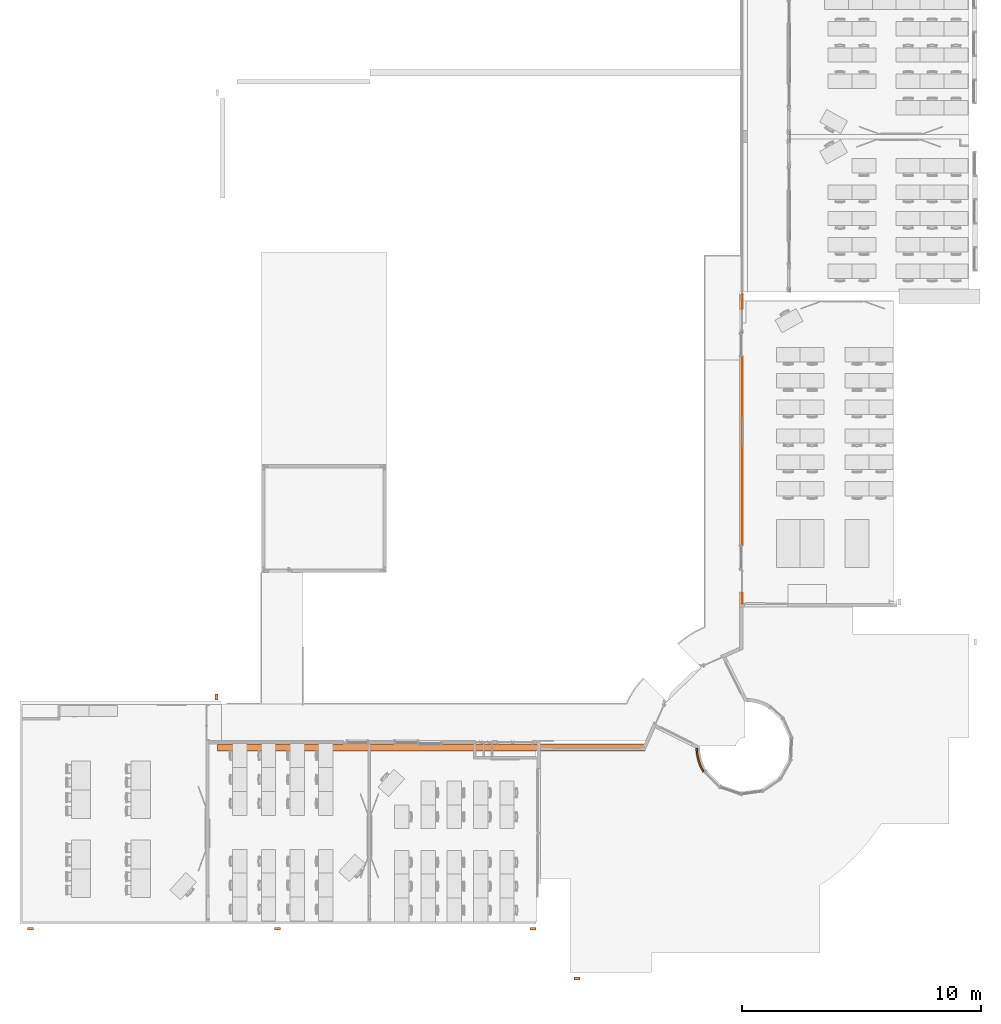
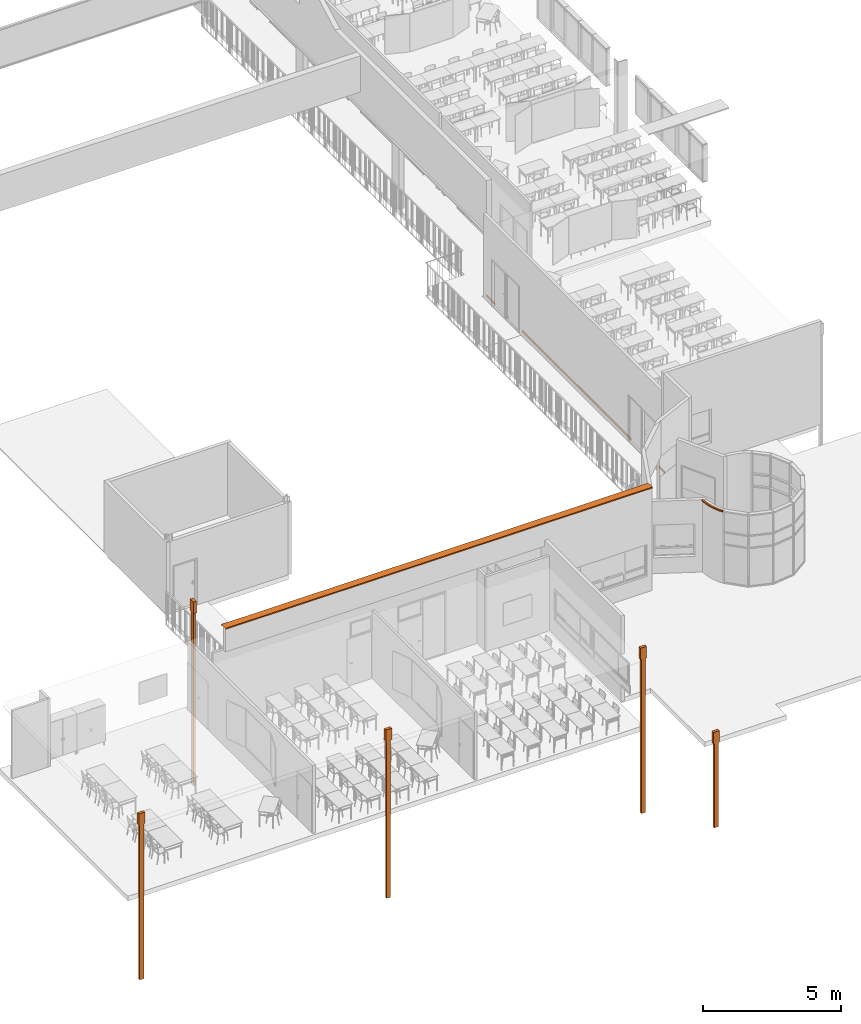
# One storey, part 43 of 44: 8 proxies.
"""IFC2X3 building model written with IfcOpenShell, lengths in centimetres."""

from ifc_helpers import new_model, entity, si_unit, converted_unit, derived_unit, direction, frame, frame_2d, origin, origin_2d_with_axis, place, context, subcontext, project, spatial, polyline, circle_curve, parameter, trimmed, segment, composite_curve, rectangle, outline, extrude, source, transform, mapped, type_object, type_shapes, element, save


model = new_model("IFC2X3")

# Units and contexts
model_context = context("Model", 3, precision=0.001, world=origin(), true_north=direction((6.12303176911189e-17, 1.0)))
body_context = subcontext(model_context, "Body", "Model", "MODEL_VIEW")
ifc_project = project(units=[si_unit("LENGTHUNIT", "METRE", prefix="CENTI"), si_unit("AREAUNIT", "SQUARE_METRE"), si_unit("VOLUMEUNIT", "CUBIC_METRE"), converted_unit("PLANEANGLEUNIT", "DEGREE", entity("IfcRatioMeasure", 0.0174532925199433), si_unit("PLANEANGLEUNIT", "RADIAN"), dimensions=[0, 0, 0, 0, 0, 0, 0]), si_unit("MASSUNIT", "GRAM", prefix="KILO"), si_unit("TIMEUNIT", "SECOND"), si_unit("FREQUENCYUNIT", "HERTZ"), si_unit("THERMODYNAMICTEMPERATUREUNIT", "DEGREE_CELSIUS"), derived_unit("THERMALTRANSMITTANCEUNIT", [(si_unit("MASSUNIT", "GRAM", prefix="KILO"), 1), (si_unit("THERMODYNAMICTEMPERATUREUNIT", "KELVIN"), -1), (si_unit("TIMEUNIT", "SECOND"), -3)]), derived_unit("VOLUMETRICFLOWRATEUNIT", [(si_unit("LENGTHUNIT", "METRE"), 3), (si_unit("TIMEUNIT", "SECOND"), -1)]), si_unit("ELECTRICCURRENTUNIT", "AMPERE"), si_unit("ELECTRICVOLTAGEUNIT", "VOLT"), si_unit("POWERUNIT", "WATT"), si_unit("FORCEUNIT", "NEWTON", prefix="KILO"), si_unit("ILLUMINANCEUNIT", "LUX"), si_unit("LUMINOUSFLUXUNIT", "LUMEN"), si_unit("LUMINOUSINTENSITYUNIT", "CANDELA"), derived_unit("USERDEFINED", [(si_unit("MASSUNIT", "GRAM", prefix="KILO"), -1), (si_unit("LENGTHUNIT", "METRE"), -2), (si_unit("TIMEUNIT", "SECOND"), 3), (si_unit("LUMINOUSFLUXUNIT", "LUMEN"), 1)]), derived_unit("LINEARVELOCITYUNIT", [(si_unit("LENGTHUNIT", "METRE"), 1), (si_unit("TIMEUNIT", "SECOND"), -1)]), si_unit("PRESSUREUNIT", "PASCAL"), derived_unit("USERDEFINED", [(si_unit("LENGTHUNIT", "METRE"), -2), (si_unit("MASSUNIT", "GRAM", prefix="KILO"), 1), (si_unit("TIMEUNIT", "SECOND"), -2)])], contexts=[model_context])

# Site, building, storey
site_placement = place(None, frame((8.62739174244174, -249.285249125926, 0.0)))
site = spatial("IfcSite", under=ifc_project, at=site_placement, Name="Default", CompositionType="ELEMENT")
building_placement = place(site_placement, origin())
building = spatial("IfcBuilding", under=site, at=building_placement, CompositionType="ELEMENT")
storey_placement = place(building_placement, frame((0.0, 0.0, 343.0)))
storey = spatial("IfcBuildingStorey", under=building, at=storey_placement, Name="R+1", CompositionType="ELEMENT", Elevation=343.0)

# Proxies
building_element_proxy_type_1 = type_object("IfcBuildingElementProxyType", Name="descenteEP", PredefinedType="NOTDEFINED")
shared_shape_1 = source(origin(), body_context, "Body", "SweptSolid", [
    extrude(rectangle(XDim=10.0, YDim=17.0, at=frame_2d((0.0, 3.5527136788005e-15), x_axis=(1.0, 0.0))), frame((0.0, 0.0, -373.3), z_axis=(0.0, 0.0, 1.0), x_axis=(0.0, -1.0, 0.0)), (0.0, 0.0, 1.0), 373.3),
    extrude(rectangle(XDim=12.0, YDim=25.0, at=origin_2d_with_axis()), frame((0.0, 0.0, 0.0), z_axis=(0.0, 0.0, 1.0), x_axis=(0.0, 1.0, 0.0)), (0.0, 0.0, 1.0), 50.5380588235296),
])
type_shapes(building_element_proxy_type_1, [shared_shape_1])
proxy_1_placement = place(storey_placement, frame((2341.4048278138, -214.019791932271, 5.0)))
element("IfcBuildingElementProxy", 1, at=proxy_1_placement, inside=storey, type_object=building_element_proxy_type_1, Name="descenteEP:descenteEP", ObjectType="descenteEP", context=body_context, shape_type="MappedRepresentation", body=[
    mapped(shared_shape_1, transform((0.0, 0.0, 0.0), scale=1.0)),
])
building_element_proxy_type_2 = type_object("IfcBuildingElementProxyType", Name="descenteEP", PredefinedType="NOTDEFINED")
shared_shape_2 = source(origin(), body_context, "Body", "SweptSolid", [
    extrude(rectangle(XDim=10.0, YDim=17.0, at=frame_2d((0.0, 3.5527136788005e-15), x_axis=(1.0, 0.0))), frame((0.0, 0.0, -683.0), z_axis=(0.0, 0.0, 1.0), x_axis=(0.0, -1.0, 0.0)), (0.0, 0.0, 1.0), 683.0),
    extrude(rectangle(XDim=12.0, YDim=25.0, at=origin_2d_with_axis()), frame((0.0, 0.0, 0.0), z_axis=(0.0, 0.0, 1.0), x_axis=(0.0, 1.0, 0.0)), (0.0, 0.0, 1.0), 50.5380588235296),
])
type_shapes(building_element_proxy_type_2, [shared_shape_2])
proxy_2_placement = place(storey_placement, frame((2156.40482780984, -6.0, 316.0)))
element("IfcBuildingElementProxy", 2, at=proxy_2_placement, inside=storey, type_object=building_element_proxy_type_2, Name="descenteEP:descenteEP", ObjectType="descenteEP", context=body_context, shape_type="MappedRepresentation", body=[
    mapped(shared_shape_2, transform((0.0, 0.0, 0.0), scale=1.0)),
])
building_element_proxy_type_3 = type_object("IfcBuildingElementProxyType", Name="descenteEP", PredefinedType="NOTDEFINED")
shared_shape_3 = source(origin(), body_context, "Body", "SweptSolid", [
    extrude(rectangle(XDim=10.0, YDim=17.0, at=frame_2d((0.0, 3.5527136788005e-15), x_axis=(1.0, 0.0))), frame((0.0, 0.0, -685.0), z_axis=(0.0, 0.0, 1.0), x_axis=(0.0, -1.0, 0.0)), (0.0, 0.0, 1.0), 685.0),
    extrude(rectangle(XDim=12.0, YDim=25.0, at=origin_2d_with_axis()), frame((0.0, 0.0, 0.0), z_axis=(0.0, 0.0, 1.0), x_axis=(0.0, 1.0, 0.0)), (0.0, 0.0, 1.0), 50.5380588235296),
])
type_shapes(building_element_proxy_type_3, [shared_shape_3])
proxy_3_placement = place(storey_placement, frame((57.5000000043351, -6.0, 318.0)))
element("IfcBuildingElementProxy", 3, at=proxy_3_placement, inside=storey, type_object=building_element_proxy_type_3, Name="descenteEP:descenteEP", ObjectType="descenteEP", context=body_context, shape_type="MappedRepresentation", body=[
    mapped(shared_shape_3, transform((0.0, 0.0, 0.0), scale=1.0)),
])
building_element_proxy_type_4 = type_object("IfcBuildingElementProxyType", Name="descenteEP", PredefinedType="NOTDEFINED")
shared_shape_4 = source(origin(), body_context, "Body", "SweptSolid", [
    extrude(rectangle(XDim=10.0, YDim=17.0, at=frame_2d((0.0, 3.5527136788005e-15), x_axis=(1.0, 0.0))), frame((0.0, 0.0, -696.0), z_axis=(0.0, 0.0, 1.0), x_axis=(0.0, -1.0, 0.0)), (0.0, 0.0, 1.0), 696.0),
    extrude(rectangle(XDim=12.0, YDim=25.0, at=origin_2d_with_axis()), frame((0.0, 0.0, 0.0), z_axis=(0.0, 0.0, 1.0), x_axis=(0.0, 1.0, 0.0)), (0.0, 0.0, 1.0), 50.5380588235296),
])
type_shapes(building_element_proxy_type_4, [shared_shape_4])
proxy_4_placement = place(storey_placement, frame((1090.50000000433, -6.0, 328.0)))
element("IfcBuildingElementProxy", 4, at=proxy_4_placement, inside=storey, type_object=building_element_proxy_type_4, Name="descenteEP:descenteEP", ObjectType="descenteEP", context=body_context, shape_type="MappedRepresentation", body=[
    mapped(shared_shape_4, transform((0.0, 0.0, 0.0), scale=1.0)),
])
building_element_proxy_type_5 = type_object("IfcBuildingElementProxyType", Name="descenteEP", PredefinedType="NOTDEFINED")
shared_shape_5 = source(origin(), body_context, "Body", "SweptSolid", [
    extrude(rectangle(XDim=10.0, YDim=17.0, at=frame_2d((0.0, 3.5527136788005e-15), x_axis=(1.0, 0.0))), frame((0.0, 0.0, -766.0), z_axis=(0.0, 0.0, 1.0), x_axis=(0.0, -1.0, 0.0)), (0.0, 0.0, 1.0), 766.0),
    extrude(rectangle(XDim=12.0, YDim=25.0, at=origin_2d_with_axis()), frame((0.0, 0.0, 0.0), z_axis=(0.0, 0.0, 1.0), x_axis=(0.0, 1.0, 0.0)), (0.0, 0.0, 1.0), 50.5380588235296),
])
type_shapes(building_element_proxy_type_5, [shared_shape_5])
proxy_5_placement = place(storey_placement, frame((834.904827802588, 961.499999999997, 398.0), z_axis=(0.0, 0.0, 1.0), x_axis=(0.0, -1.0, 0.0)))
element("IfcBuildingElementProxy", 5, at=proxy_5_placement, inside=storey, type_object=building_element_proxy_type_5, Name="descenteEP:descenteEP", ObjectType="descenteEP", context=body_context, shape_type="MappedRepresentation", body=[
    mapped(shared_shape_5, transform((0.0, 0.0, 0.0), scale=1.0)),
])
proxy_6_placement = place(storey_placement, origin())
element("IfcBuildingElementProxy", 6, at=proxy_6_placement, inside=storey, Name="Profil en relief:Plinthe-10x2", ObjectType="Profil en relief:Plinthe-10x2", context=body_context, shape_type="SweptSolid", body=[
    extrude(rectangle(XDim=60.0000000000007, YDim=1.99999999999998, at=frame_2d((2.16715534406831e-13, 2.16604512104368e-13), x_axis=(1.0, 0.0))), frame((3032.98509457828, 2614.98020806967, 0.0), z_axis=(0.0, 0.0, 1.0), x_axis=(0.0, -1.0, 0.0)), (0.0, 0.0, 1.0), 10.0),
    extrude(rectangle(XDim=0.99970699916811, YDim=1.99999999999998, at=frame_2d((2.16576756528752e-13, 2.16604512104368e-13), x_axis=(1.0, 0.0))), frame((3032.98509457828, 2484.48035457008, 0.0), z_axis=(0.0, 0.0, 1.0), x_axis=(0.0, -1.0, 0.0)), (0.0, 0.0, 1.0), 10.0),
    extrude(rectangle(XDim=787.682675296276, YDim=1.99999999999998, at=frame_2d((-1.13686837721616e-13, 0.0), x_axis=(1.0, 0.0))), frame((3032.98509457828, 1990.13916342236, 0.0), z_axis=(0.0, 0.0, 1.0), x_axis=(0.0, -1.0, 0.0)), (0.0, 0.0, 1.0), 10.0),
    extrude(rectangle(XDim=43.3180121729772, YDim=1.99999999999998, at=frame_2d((-1.08357767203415e-13, -2.16604512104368e-13), x_axis=(1.0, 0.0))), frame((3032.98509457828, 1374.63881968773, 0.0), z_axis=(0.0, 0.0, 1.0), x_axis=(0.0, -1.0, 0.0)), (0.0, 0.0, 1.0), 10.0),
])
proxy_7_placement = place(storey_placement, origin())
element("IfcBuildingElementProxy", 7, at=proxy_7_placement, inside=storey, Name="Profil en relief:Profil-acier-5x5", ObjectType="Profil en relief:Profil-acier-5x5", context=body_context, shape_type="SweptSolid", body=[
    extrude(outline(composite_curve([segment(polyline([(9.30676430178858, -49.2885033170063), (16.3067643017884, -49.2885033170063)]), True, "CONTINUOUS"), segment(trimmed(circle_curve(frame_2d((-189.693235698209, -49.288503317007), x_axis=(0.873513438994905, 0.48680003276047)), 205.999999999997), [parameter(330.869526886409)], [parameter(0.0)], True, "PARAMETER"), True, "CONTINUOUS"), segment(polyline([(-9.74946726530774, 50.9923034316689), (-15.8640613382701, 47.584703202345)]), True, "CONTINUOUS"), segment(trimmed(circle_curve(frame_2d((-189.693235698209, -49.288503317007), x_axis=(0.873513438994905, 0.48680003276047)), 198.999999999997), [parameter(330.869526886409)], [parameter(0.0)], True, "PARAMETER"), False, "CONTINUOUS")], self_intersect=False)), frame((2855.658061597, 698.554636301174, 315.0), z_axis=(0.0, 0.0, 1.0), x_axis=(-0.999533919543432, -0.0305277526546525, 0.0)), (0.0, 0.0, 1.0), 5.00000000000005),
])
proxy_8_placement = place(storey_placement, origin())
element("IfcBuildingElementProxy", 8, at=proxy_8_placement, inside=storey, Name="Profil en relief:profil-couvertine-ex", ObjectType="Profil en relief:profil-couvertine-ex", context=body_context, shape_type="SweptSolid", body=[
    extrude(outline(polyline([(-3.07708620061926, -14.9798097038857), (1.92947315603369, -14.9798097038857), (0.515259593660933, -13.5655961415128), (0.444548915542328, -13.6363068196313), (1.68805179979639, -14.8798097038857), (-2.97052684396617, -14.8798097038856), (-2.97052684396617, 14.9201902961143), (1.82947315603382, 14.9201902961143), (1.82947315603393, 13.5201902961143), (1.92947315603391, 13.5201902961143), (1.92947315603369, 15.0201902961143), (-3.07708620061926, 15.0201902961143), (-3.07708620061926, -14.9798097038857)])), frame((839.904827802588, 751.152364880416, 454.929473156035), z_axis=(1.0, 0.0, 0.0), x_axis=(0.0, 0.0, -1.0)), (0.0, 0.0, 1.0), 1784.97039880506),
])

save(model, "model.ifc")
